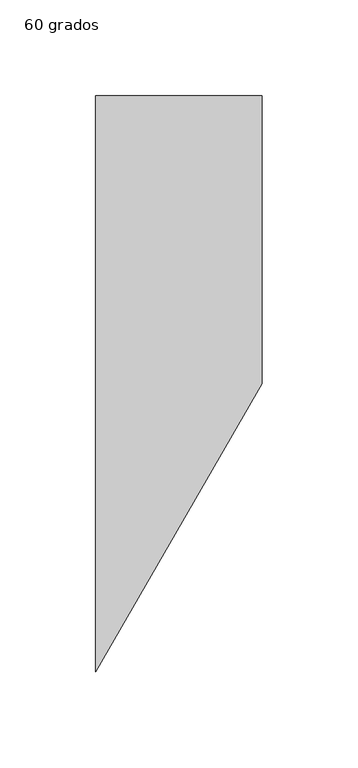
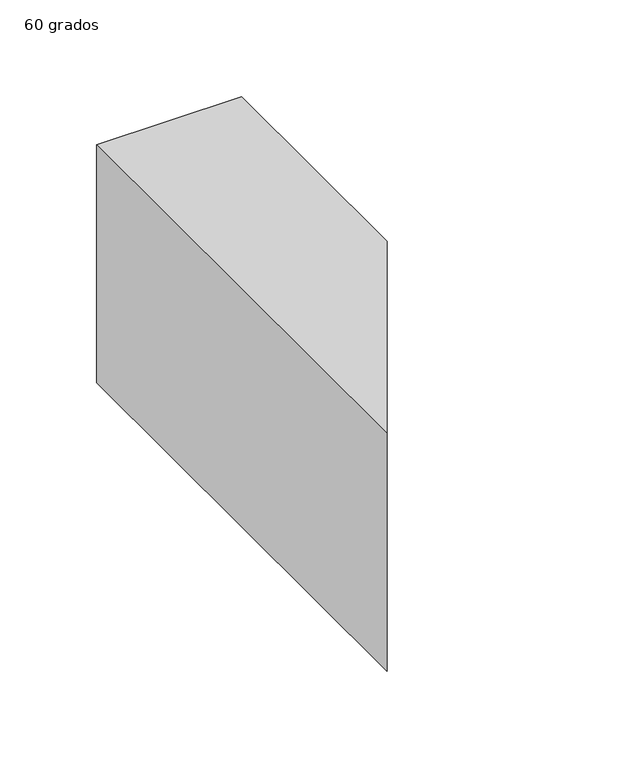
"""IFC4 building model written with IfcOpenShell, lengths in millimetres: duct fitting geometry, M_Transición rectangular - Ángulo : 60 grados."""

from ifc_helpers import new_model, si_unit, frame, origin, place, context, project, spatial, polyline, outline, extrude, source, transform, mapped, element, save


def duct_fitting_60_grados_07074cb7(model_context):
    return source(origin(), model_context, "Body", "SweptSolid", [
        extrude(outline(polyline([(0.0, -150.0), (0.0, 150.0), (86.6025404, 150.0), (86.6025404, 0.0), (0.0, -150.0)])), frame((0.0, 0.0, -75.0), z_axis=(0.0, 0.0, 1.0), x_axis=(1.0, 0.0, 0.0)), (0.0, 0.0, 1.0), 150.0),
    ])


if __name__ == "__main__":
    model = new_model("IFC4")
    model_context = context("Model", 3, world=origin())
    ifc_project = project(units=[si_unit("LENGTHUNIT", "METRE", prefix="MILLI")], contexts=[model_context])
    site = spatial("IfcSite", under=ifc_project)
    building = spatial("IfcBuilding", under=site)
    placement = place(None, origin())
    duct_fitting_60_grados_shape = duct_fitting_60_grados_07074cb7(model_context)
    element("IfcDuctFitting", 1, ObjectType="M_Transición rectangular - Ángulo : 60 grados", at=placement, inside=building, context=model_context, shape_type="MappedRepresentation", body=[
        mapped(duct_fitting_60_grados_shape, transform((0.0, 0.0, 0.0), x_axis=(1.0, 0.0, 0.0), y_axis=(0.0, 1.0, 0.0), z_axis=(0.0, 0.0, 1.0))),
    ])
    save(model, "model.ifc")
